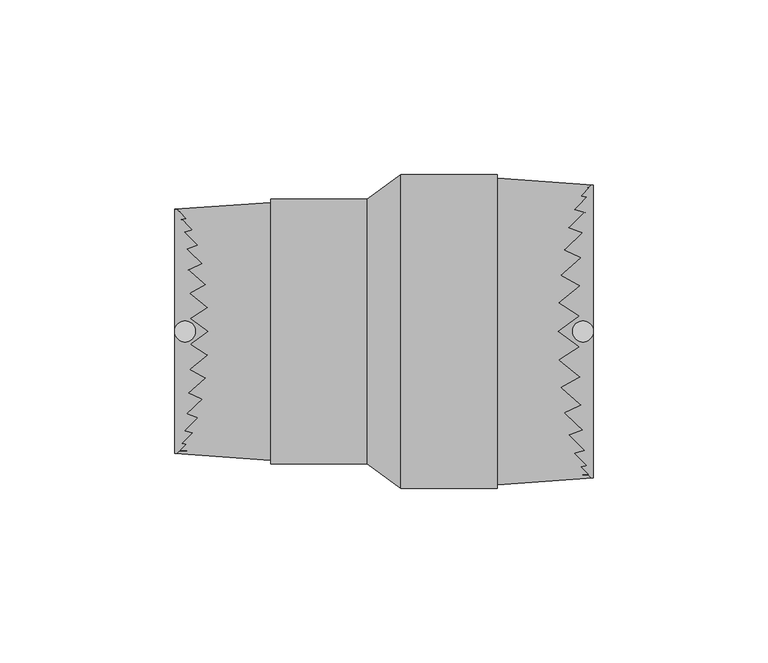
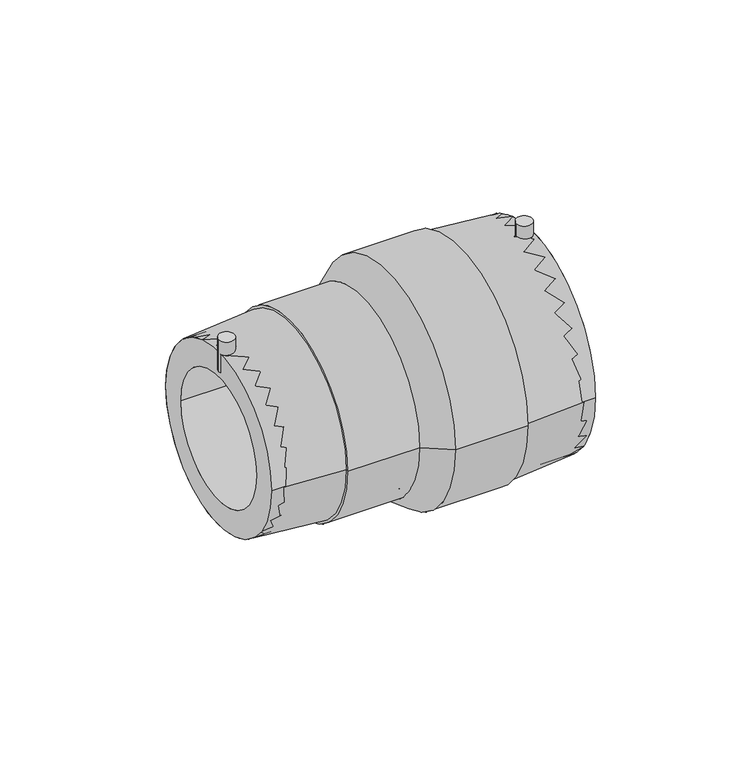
"""IFC4 building model written with IfcOpenShell, lengths in millimetres: pipe fitting geometry, EGB_VASEN_ PPR_Manguito reductor electrosoldable WXRD110 : Manguito reductor electrosoldable WXRD110."""

from ifc_helpers import new_model, si_unit, point, frame, frame_2d, origin, origin_2d, place, context, project, spatial, polyline, circle_curve, trimmed, segment, composite_curve, outline, extrude, source, transform, mapped, element, save
from ifc_brep_helpers import plane_surface, cylinder_surface, revolved_surface, advanced_brep


def pipe_fitting_c32fd054(model_context):
    return source(origin(), model_context, "Body", "SolidModel", [
        extrude(outline(composite_curve([segment(trimmed(circle_curve(frame_2d((57.0, 0.0)), 3.0), [point((54.0, 0.0))], [point((60.0, 0.0))], False, "CARTESIAN"), True, "CONTINUOUS"), segment(trimmed(circle_curve(frame_2d((57.0, 0.0)), 3.0), [point((60.0, 0.0))], [point((54.0, 0.0))], False, "CARTESIAN"), True, "CONTINUOUS")], self_intersect=False)), frame((0.0, 0.0, 33.5), z_axis=(0.0, 0.0, 1.0), x_axis=(1.0, 0.0, 0.0)), (0.0, 0.0, 1.0), 13.5),
        extrude(outline(composite_curve([segment(trimmed(circle_curve(frame_2d((-57.0, 0.0)), 3.0), [point((-60.0, 0.0))], [point((-54.0, 0.0))], False, "CARTESIAN"), True, "CONTINUOUS"), segment(trimmed(circle_curve(frame_2d((-57.0, 0.0)), 3.0), [point((-54.0, 0.0))], [point((-60.0, 0.0))], False, "CARTESIAN"), True, "CONTINUOUS")], self_intersect=False)), frame((0.0, 0.0, 27.0), z_axis=(0.0, 0.0, 1.0), x_axis=(1.0, 0.0, 0.0)), (0.0, 0.0, 1.0), 13.0),
        extrude(outline(composite_curve([segment(trimmed(circle_curve(origin_2d(), 42.0), [point((-42.0, 0.0))], [point((42.0, 0.0))], False, "CARTESIAN"), True, "CONTINUOUS"), segment(trimmed(circle_curve(origin_2d(), 42.0), [point((42.0, 0.0))], [point((-42.0, 0.0))], False, "CARTESIAN"), True, "CONTINUOUS")], self_intersect=False), holes=[composite_curve([segment(trimmed(circle_curve(origin_2d(), 31.5), [point((-31.5, 0.0))], [point((31.5, 0.0))], True, "CARTESIAN"), True, "CONTINUOUS"), segment(trimmed(circle_curve(origin_2d(), 31.5), [point((31.5, 0.0))], [point((-31.5, 0.0))], True, "CARTESIAN"), True, "CONTINUOUS")], self_intersect=False)]), frame((4.8, 0.0, 0.0), z_axis=(1.0, 0.0, 0.0), x_axis=(0.0, 1.0, 0.0)), (0.0, 0.0, 1.0), 55.2),
        extrude(outline(composite_curve([segment(trimmed(circle_curve(origin_2d(), 35.0), [point((-35.0, 0.0))], [point((35.0, 0.0))], False, "CARTESIAN"), True, "CONTINUOUS"), segment(trimmed(circle_curve(origin_2d(), 35.0), [point((35.0, 0.0))], [point((-35.0, 0.0))], False, "CARTESIAN"), True, "CONTINUOUS")], self_intersect=False), holes=[composite_curve([segment(trimmed(circle_curve(origin_2d(), 25.0), [point((-25.0, 0.0))], [point((25.0, 0.0))], True, "CARTESIAN"), True, "CONTINUOUS"), segment(trimmed(circle_curve(origin_2d(), 25.0), [point((25.0, 0.0))], [point((-25.0, 0.0))], True, "CARTESIAN"), True, "CONTINUOUS")], self_intersect=False)]), frame((-60.0, 0.0, 0.0), z_axis=(1.0, 0.0, 0.0), x_axis=(0.0, 1.0, 0.0)), (0.0, 0.0, 1.0), 55.2),
        advanced_brep(
        [(4.8, -42.0, 0.0), (4.8, 42.0, 0.0), (-4.8, -35.0, 0.0), (-4.8, 35.0, 0.0)],
        [
            (0, 1, circle_curve(frame((4.8, 0.0, 0.0), z_axis=(1.0, 0.0, 0.0), x_axis=(0.0, -1.0, 0.0)), 42.0)),
            (1, 0, circle_curve(frame((4.8, 0.0, 0.0), z_axis=(1.0, 0.0, 0.0), x_axis=(0.0, 1.0, 0.0)), 42.0)),
            (2, 3, circle_curve(frame((-4.8, 0.0, 0.0), z_axis=(-1.0, 0.0, 0.0), x_axis=(0.0, 1.0, 0.0)), 35.0)),
            (3, 2, circle_curve(frame((-4.8, 0.0, 0.0), z_axis=(-1.0, 0.0, 0.0), x_axis=(0.0, -1.0, 0.0)), 35.0)),
            (3, 1),
            (0, 2),
        ],
        [
            plane_surface(frame((4.8, 0.0, 0.0), z_axis=(1.0, 0.0, 0.0), x_axis=(0.0, 0.0, -1.0))),
            plane_surface(frame((-4.8, 0.0, 0.0), z_axis=(-1.0, 0.0, 0.0), x_axis=(0.0, 0.0, -1.0))),
            revolved_surface(polyline([(-4.799999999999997, 35.0, 0.0), (4.799999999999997, 42.0, 0.0)]), (-52.8, 0.0, 0.0), (1.0, 0.0, 0.0)),
            revolved_surface(polyline([(-4.799999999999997, -35.0, 0.0), (4.799999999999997, -42.0, 0.0)]), (-52.8, 0.0, 0.0), (1.0, 0.0, 0.0)),
        ],
        [
            (0, [[1, 2]]),
            (1, [[3, 4]]),
            (2, [[-4, 5, -1, 6]]),
            (3, [[-3, -6, -2, -5]]),
        ],
    ),
        advanced_brep(
        [(4.8, -42.0, 0.0), (4.8, 42.0, 0.0), (-4.8, 35.0, 0.0), (-4.8, -35.0, 0.0), (60.0, -42.0, 0.0), (60.0, 42.0, 0.0), (32.4, -44.0, 0.0), (32.4, 44.0, 0.0), (32.4, -45.0, 0.0), (32.4, 45.0, 0.0), (4.8, -45.0, 0.0), (4.8, 45.0, 0.0), (-4.8, -38.0, 0.0), (-4.8, 38.0, 0.0), (-32.4, -38.0, 0.0), (-32.4, 38.0, 0.0), (-32.4, -37.0, 0.0), (-32.4, 37.0, 0.0), (-60.0, -35.0, 0.0), (-60.0, 35.0, 0.0)],
        [
            (0, 1, circle_curve(frame((4.8, 0.0, 0.0), z_axis=(1.0, 0.0, 0.0), x_axis=(0.0, 1.0, 0.0)), 42.0)),
            (1, 2),
            (2, 3, circle_curve(frame((-4.8, 0.0, 0.0), z_axis=(-1.0, 0.0, 0.0), x_axis=(0.0, 1.0, 0.0)), 35.0)),
            (3, 0),
            (1, 0, circle_curve(frame((4.8, 0.0, 0.0), z_axis=(1.0, 0.0, 0.0), x_axis=(0.0, 1.0, 0.0)), 42.0)),
            (3, 2, circle_curve(frame((-4.8, 0.0, 0.0), z_axis=(-1.0, 0.0, 0.0), x_axis=(0.0, 1.0, 0.0)), 35.0)),
            (4, 5, circle_curve(frame((60.0, 0.0, 0.0), z_axis=(1.0, 0.0, 0.0), x_axis=(0.0, 1.0, 0.0)), 42.0)),
            (5, 1),
            (0, 4),
            (5, 4, circle_curve(frame((60.0, 0.0, 0.0), z_axis=(1.0, 0.0, 0.0), x_axis=(0.0, 1.0, 0.0)), 42.0)),
            (6, 7, circle_curve(frame((32.4, 0.0, 0.0), z_axis=(1.0, 0.0, 0.0), x_axis=(0.0, 1.0, 0.0)), 44.0)),
            (7, 5),
            (4, 6),
            (7, 6, circle_curve(frame((32.4, 0.0, 0.0), z_axis=(1.0, 0.0, 0.0), x_axis=(0.0, 1.0, 0.0)), 44.0)),
            (8, 9, circle_curve(frame((32.4, 0.0, 0.0), z_axis=(1.0, 0.0, 0.0), x_axis=(0.0, 1.0, 0.0)), 45.0)),
            (9, 7),
            (6, 8),
            (9, 8, circle_curve(frame((32.4, 0.0, 0.0), z_axis=(1.0, 0.0, 0.0), x_axis=(0.0, 1.0, 0.0)), 45.0)),
            (10, 11, circle_curve(frame((4.8, 0.0, 0.0), z_axis=(1.0, 0.0, 0.0), x_axis=(0.0, 1.0, 0.0)), 45.0)),
            (11, 9),
            (8, 10),
            (11, 10, circle_curve(frame((4.8, 0.0, 0.0), z_axis=(1.0, 0.0, 0.0), x_axis=(0.0, 1.0, 0.0)), 45.0)),
            (12, 13, circle_curve(frame((-4.8, 0.0, 0.0), z_axis=(1.0, 0.0, 0.0), x_axis=(0.0, 1.0, 0.0)), 38.0)),
            (13, 11),
            (10, 12),
            (13, 12, circle_curve(frame((-4.8, 0.0, 0.0), z_axis=(1.0, 0.0, 0.0), x_axis=(0.0, 1.0, 0.0)), 38.0)),
            (14, 15, circle_curve(frame((-32.4, 0.0, 0.0), z_axis=(1.0, 0.0, 0.0), x_axis=(0.0, 1.0, 0.0)), 38.0)),
            (15, 13),
            (12, 14),
            (15, 14, circle_curve(frame((-32.4, 0.0, 0.0), z_axis=(1.0, 0.0, 0.0), x_axis=(0.0, 1.0, 0.0)), 38.0)),
            (16, 17, circle_curve(frame((-32.4, 0.0, 0.0), z_axis=(1.0, 0.0, 0.0), x_axis=(0.0, 1.0, 0.0)), 37.0)),
            (17, 15),
            (14, 16),
            (17, 16, circle_curve(frame((-32.4, 0.0, 0.0), z_axis=(1.0, 0.0, 0.0), x_axis=(0.0, 1.0, 0.0)), 37.0)),
            (18, 19, circle_curve(frame((-60.0, 0.0, 0.0), z_axis=(1.0, 0.0, 0.0), x_axis=(0.0, 1.0, 0.0)), 35.0)),
            (19, 17),
            (16, 18),
            (19, 18, circle_curve(frame((-60.0, 0.0, 0.0), z_axis=(1.0, 0.0, 0.0), x_axis=(0.0, 1.0, 0.0)), 35.0)),
            (2, 19),
            (18, 3),
        ],
        [
            revolved_surface(polyline([(-4.8, 35.0, 0.0), (4.8, 42.0, 0.0)]), (-95.0, 0.0, 0.0), (-1.0, 0.0, 0.0)),
            revolved_surface(polyline([(4.799999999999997, 42.0, 0.0), (60.0, 42.0, 0.0)]), (-95.0, 0.0, 0.0), (-1.0, 0.0, 0.0)),
            revolved_surface(polyline([(60.0, 42.0, 0.0), (32.4, 44.0, 0.0)]), (-95.0, 0.0, 0.0), (-1.0, 0.0, 0.0)),
            plane_surface(frame((32.4, 0.0, 0.0), z_axis=(1.0, 0.0, 0.0), x_axis=(0.0, 1.0, 0.0))),
            cylinder_surface(frame((-95.0, 0.0, 0.0), z_axis=(-1.0, 0.0, 0.0), x_axis=(0.0, 1.0, 0.0)), 45.0),
            revolved_surface(polyline([(4.8, 45.0, 0.0), (-4.8, 38.0, 0.0)]), (-95.0, 0.0, 0.0), (-1.0, 0.0, 0.0)),
            cylinder_surface(frame((-95.0, 0.0, 0.0), z_axis=(-1.0, 0.0, 0.0), x_axis=(0.0, 1.0, 0.0)), 38.0),
            plane_surface(frame((-32.4, 0.0, 0.0), z_axis=(-1.0, 0.0, 0.0), x_axis=(0.0, 1.0, 0.0))),
            revolved_surface(polyline([(-32.4, 37.0, 0.0), (-60.0, 35.0, 0.0)]), (-95.0, 0.0, 0.0), (-1.0, 0.0, 0.0)),
            revolved_surface(polyline([(-60.0, 35.0, 0.0), (-4.799999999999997, 35.0, 0.0)]), (-95.0, 0.0, 0.0), (-1.0, 0.0, 0.0)),
        ],
        [
            (0, [[1, 2, 3, 4]]),
            (0, [[5, -4, 6, -2]]),
            (1, [[7, 8, -1, 9]]),
            (1, [[10, -9, -5, -8]]),
            (2, [[11, 12, -7, 13]]),
            (2, [[14, -13, -10, -12]]),
            (3, [[15, 16, -11, 17]]),
            (3, [[18, -17, -14, -16]]),
            (4, [[19, 20, -15, 21]]),
            (4, [[22, -21, -18, -20]]),
            (5, [[23, 24, -19, 25]]),
            (5, [[26, -25, -22, -24]]),
            (6, [[27, 28, -23, 29]]),
            (6, [[30, -29, -26, -28]]),
            (7, [[31, 32, -27, 33]]),
            (7, [[34, -33, -30, -32]]),
            (8, [[35, 36, -31, 37]]),
            (8, [[38, -37, -34, -36]]),
            (9, [[-3, 39, -35, 40]]),
            (9, [[-6, -40, -38, -39]]),
        ],
    ),
    ])


if __name__ == "__main__":
    model = new_model("IFC4")
    model_context = context("Model", 3, world=origin())
    ifc_project = project(units=[si_unit("LENGTHUNIT", "METRE", prefix="MILLI")], contexts=[model_context])
    site = spatial("IfcSite", under=ifc_project)
    building = spatial("IfcBuilding", under=site)
    placement = place(None, origin())
    pipe_fitting_shape = pipe_fitting_c32fd054(model_context)
    element("IfcPipeFitting", 1, ObjectType="EGB_VASEN_ PPR_Manguito reductor electrosoldable WXRD110 : Manguito reductor electrosoldable WXRD110", at=placement, inside=building, context=model_context, shape_type="MappedRepresentation", body=[
        mapped(pipe_fitting_shape, transform((0.0, 0.0, 0.0), x_axis=(1.0, 0.0, 0.0), y_axis=(0.0, 1.0, 0.0), z_axis=(0.0, 0.0, 1.0))),
    ])
    save(model, "model.ifc")
